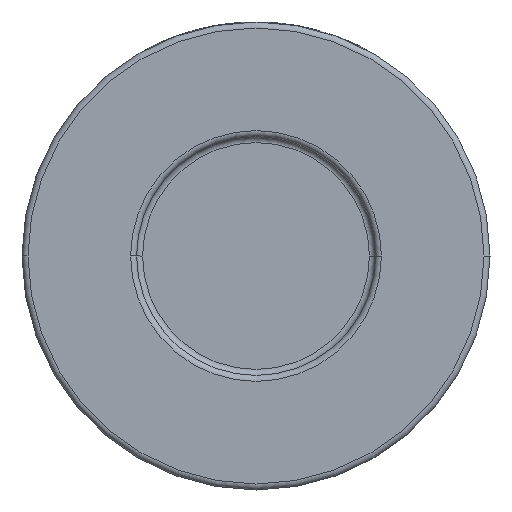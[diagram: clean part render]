
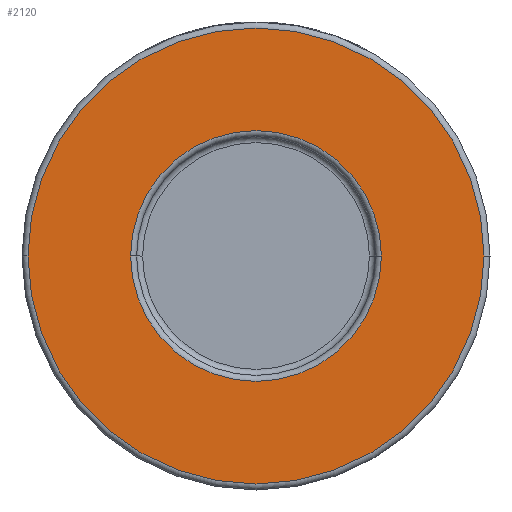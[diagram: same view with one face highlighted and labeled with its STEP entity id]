
A CAD part, front view. The second image highlights one B-rep face of the part: STEP entity #2120.
In plain terms, the highlighted planar face has unit normal (0, -1, 0).
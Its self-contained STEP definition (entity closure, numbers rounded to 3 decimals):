
#59 = CARTESIAN_POINT ( 'NONE',  ( -38., -26., 0. ) ) ;
#62 = CIRCLE ( 'NONE', #279, 20.9 ) ;
#117 = CARTESIAN_POINT ( 'NONE',  ( 0., -26., 0. ) ) ;
#279 = AXIS2_PLACEMENT_3D ( 'NONE', #961, #668, #940 ) ;
#405 = CIRCLE ( 'NONE', #2776, 20.9 ) ;
#491 = DIRECTION ( 'NONE',  ( 1., 0., 0. ) ) ;
#668 = DIRECTION ( 'NONE',  ( 0., 1., 0. ) ) ;
#699 = DIRECTION ( 'NONE',  ( 0., 1., 0. ) ) ;
#701 = AXIS2_PLACEMENT_3D ( 'NONE', #1881, #3304, #1529 ) ;
#940 = DIRECTION ( 'NONE',  ( 1., 0., 0. ) ) ;
#961 = CARTESIAN_POINT ( 'NONE',  ( 0., -26., 0. ) ) ;
#978 = CARTESIAN_POINT ( 'NONE',  ( -20.9, -26., 0. ) ) ;
#1090 = CIRCLE ( 'NONE', #2662, 38. ) ;
#1181 = DIRECTION ( 'NONE',  ( 0., -1., 0. ) ) ;
#1248 = ORIENTED_EDGE ( 'NONE', *, *, #2093, .T. ) ;
#1259 = EDGE_CURVE ( 'NONE', #4274, #3763, #405, .T. ) ;
#1310 = PLANE ( 'NONE',  #1598 ) ;
#1529 = DIRECTION ( 'NONE',  ( 1., 0., 0. ) ) ;
#1598 = AXIS2_PLACEMENT_3D ( 'NONE', #1706, #2035, #3047 ) ;
#1706 = CARTESIAN_POINT ( 'NONE',  ( 39., -26., 0. ) ) ;
#1798 = ORIENTED_EDGE ( 'NONE', *, *, #1259, .T. ) ;
#1881 = CARTESIAN_POINT ( 'NONE',  ( 0., -26., 0. ) ) ;
#2024 = EDGE_CURVE ( 'NONE', #3139, #2679, #1090, .T. ) ;
#2035 = DIRECTION ( 'NONE',  ( 0., -1., 0. ) ) ;
#2070 = EDGE_LOOP ( 'NONE', ( #3487, #1798 ) ) ;
#2093 = EDGE_CURVE ( 'NONE', #2679, #3139, #3083, .T. ) ;
#2120 = ADVANCED_FACE ( 'NONE', ( #4171, #4196 ), #1310, .T. ) ;
#2221 = EDGE_LOOP ( 'NONE', ( #2886, #1248 ) ) ;
#2662 = AXIS2_PLACEMENT_3D ( 'NONE', #117, #1181, #491 ) ;
#2679 = VERTEX_POINT ( 'NONE', #59 ) ;
#2708 = CARTESIAN_POINT ( 'NONE',  ( 20.9, -26., 0. ) ) ;
#2763 = CARTESIAN_POINT ( 'NONE',  ( 38., -26., 0. ) ) ;
#2776 = AXIS2_PLACEMENT_3D ( 'NONE', #3568, #699, #4305 ) ;
#2886 = ORIENTED_EDGE ( 'NONE', *, *, #2024, .T. ) ;
#3047 = DIRECTION ( 'NONE',  ( 1., 0., 0. ) ) ;
#3083 = CIRCLE ( 'NONE', #701, 38. ) ;
#3086 = EDGE_CURVE ( 'NONE', #3763, #4274, #62, .T. ) ;
#3139 = VERTEX_POINT ( 'NONE', #2763 ) ;
#3304 = DIRECTION ( 'NONE',  ( 0., -1., 0. ) ) ;
#3487 = ORIENTED_EDGE ( 'NONE', *, *, #3086, .T. ) ;
#3568 = CARTESIAN_POINT ( 'NONE',  ( 0., -26., 0. ) ) ;
#3763 = VERTEX_POINT ( 'NONE', #2708 ) ;
#4171 = FACE_BOUND ( 'NONE', #2070, .T. ) ;
#4196 = FACE_OUTER_BOUND ( 'NONE', #2221, .T. ) ;
#4274 = VERTEX_POINT ( 'NONE', #978 ) ;
#4305 = DIRECTION ( 'NONE',  ( 1., 0., 0. ) ) ;
